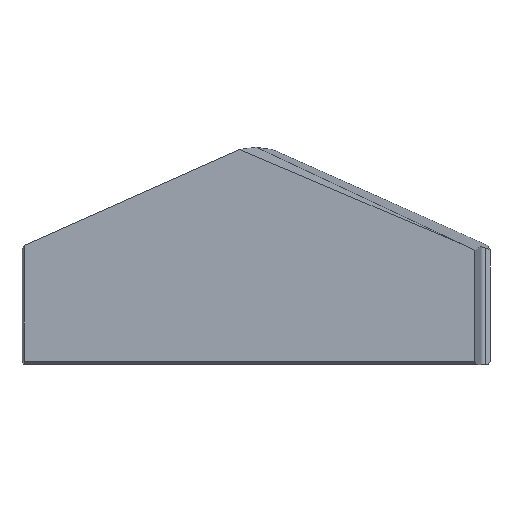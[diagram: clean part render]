
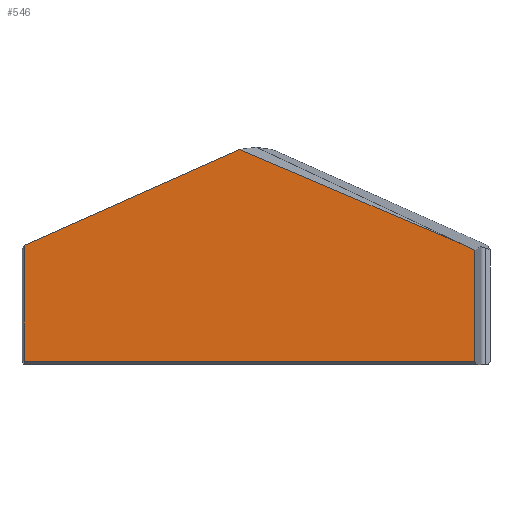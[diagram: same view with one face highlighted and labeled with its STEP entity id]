
A CAD part, top view. The second image highlights one B-rep face of the part: STEP entity #546.
In plain terms, the highlighted planar face has unit normal (0, 0, 1).
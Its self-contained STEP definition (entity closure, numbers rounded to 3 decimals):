
#8 = B_SPLINE_CURVE_WITH_KNOTS ( 'NONE', 3,
 ( #541, #248, #500, #606 ),
 .UNSPECIFIED., .F., .F.,
 ( 4, 4 ),
 ( 0., 0. ),
 .UNSPECIFIED. ) ;
#9 = LINE ( 'NONE', #268, #468 ) ;
#10 = LINE ( 'NONE', #34, #184 ) ;
#11 = ORIENTED_EDGE ( 'NONE', *, *, #191, .T. ) ;
#23 = ORIENTED_EDGE ( 'NONE', *, *, #89, .T. ) ;
#34 = CARTESIAN_POINT ( 'NONE',  ( 7.119, 16.7, 6.4 ) ) ;
#54 = VERTEX_POINT ( 'NONE', #241 ) ;
#80 = DIRECTION ( 'NONE',  ( -0.92, 0.392, 0. ) ) ;
#85 = DIRECTION ( 'NONE',  ( 0., 0., 1. ) ) ;
#89 = EDGE_CURVE ( 'NONE', #477, #54, #93, .T. ) ;
#93 = LINE ( 'NONE', #533, #338 ) ;
#97 = DIRECTION ( 'NONE',  ( 0., 1., 0. ) ) ;
#102 = FACE_OUTER_BOUND ( 'NONE', #454, .T. ) ;
#110 = CARTESIAN_POINT ( 'NONE',  ( -21.993, 0.3, 6.4 ) ) ;
#130 = DIRECTION ( 'NONE',  ( -0.914, 0.407, 0. ) ) ;
#141 = VECTOR ( 'NONE', #549, 1000. ) ;
#151 = AXIS2_PLACEMENT_3D ( 'NONE', #518, #85, #522 ) ;
#152 = ORIENTED_EDGE ( 'NONE', *, *, #257, .T. ) ;
#157 = CARTESIAN_POINT ( 'NONE',  ( 21.818, 0.289, 6.4 ) ) ;
#173 = VERTEX_POINT ( 'NONE', #110 ) ;
#184 = VECTOR ( 'NONE', #80, 1000. ) ;
#190 = ORIENTED_EDGE ( 'NONE', *, *, #440, .T. ) ;
#191 = EDGE_CURVE ( 'NONE', #263, #477, #421, .T. ) ;
#197 = ORIENTED_EDGE ( 'NONE', *, *, #524, .F. ) ;
#231 = CARTESIAN_POINT ( 'NONE',  ( 20.775, 0.289, 6.4 ) ) ;
#234 = VERTEX_POINT ( 'NONE', #399 ) ;
#241 = CARTESIAN_POINT ( 'NONE',  ( 20.775, 10.856, 6.4 ) ) ;
#242 = ORIENTED_EDGE ( 'NONE', *, *, #458, .T. ) ;
#243 = VECTOR ( 'NONE', #330, 1000. ) ;
#248 = CARTESIAN_POINT ( 'NONE',  ( -21.991, 0.296, 6.4 ) ) ;
#257 = EDGE_CURVE ( 'NONE', #173, #263, #8, .T. ) ;
#260 = LINE ( 'NONE', #368, #243 ) ;
#263 = VERTEX_POINT ( 'NONE', #497 ) ;
#268 = CARTESIAN_POINT ( 'NONE',  ( 7.471, 16.779, 6.4 ) ) ;
#301 = ORIENTED_EDGE ( 'NONE', *, *, #470, .T. ) ;
#324 = CARTESIAN_POINT ( 'NONE',  ( -21.993, 11.298, 6.4 ) ) ;
#330 = DIRECTION ( 'NONE',  ( -0.914, -0.407, 0. ) ) ;
#338 = VECTOR ( 'NONE', #97, 1000. ) ;
#368 = CARTESIAN_POINT ( 'NONE',  ( 0., 21.09, 6.4 ) ) ;
#375 = VECTOR ( 'NONE', #424, 1000. ) ;
#399 = CARTESIAN_POINT ( 'NONE',  ( 19.57, 11.392, 6.4 ) ) ;
#421 = LINE ( 'NONE', #157, #141 ) ;
#424 = DIRECTION ( 'NONE',  ( 0., 1., 0. ) ) ;
#425 = VERTEX_POINT ( 'NONE', #567 ) ;
#440 = EDGE_CURVE ( 'NONE', #54, #234, #9, .T. ) ;
#454 = EDGE_LOOP ( 'NONE', ( #190, #242, #301, #197, #152, #11, #23 ) ) ;
#458 = EDGE_CURVE ( 'NONE', #234, #425, #10, .T. ) ;
#468 = VECTOR ( 'NONE', #130, 1000. ) ;
#470 = EDGE_CURVE ( 'NONE', #425, #565, #260, .T. ) ;
#471 = CARTESIAN_POINT ( 'NONE',  ( -21.993, 0., 6.4 ) ) ;
#477 = VERTEX_POINT ( 'NONE', #231 ) ;
#497 = CARTESIAN_POINT ( 'NONE',  ( -21.987, 0.289, 6.4 ) ) ;
#500 = CARTESIAN_POINT ( 'NONE',  ( -21.989, 0.292, 6.4 ) ) ;
#518 = CARTESIAN_POINT ( 'NONE',  ( 0., 0., 6.4 ) ) ;
#522 = DIRECTION ( 'NONE',  ( 1., 0., 0. ) ) ;
#524 = EDGE_CURVE ( 'NONE', #173, #565, #632, .T. ) ;
#533 = CARTESIAN_POINT ( 'NONE',  ( 20.775, 0., 6.4 ) ) ;
#541 = CARTESIAN_POINT ( 'NONE',  ( -21.993, 0.3, 6.4 ) ) ;
#546 = ADVANCED_FACE ( 'NONE', ( #102 ), #627, .T. ) ;
#549 = DIRECTION ( 'NONE',  ( 1., 0., 0. ) ) ;
#565 = VERTEX_POINT ( 'NONE', #324 ) ;
#567 = CARTESIAN_POINT ( 'NONE',  ( -1.555, 20.398, 6.4 ) ) ;
#606 = CARTESIAN_POINT ( 'NONE',  ( -21.987, 0.289, 6.4 ) ) ;
#627 = PLANE ( 'NONE',  #151 ) ;
#632 = LINE ( 'NONE', #471, #375 ) ;
